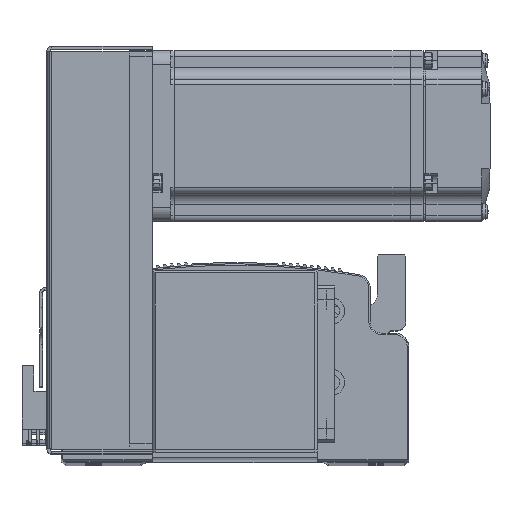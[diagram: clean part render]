
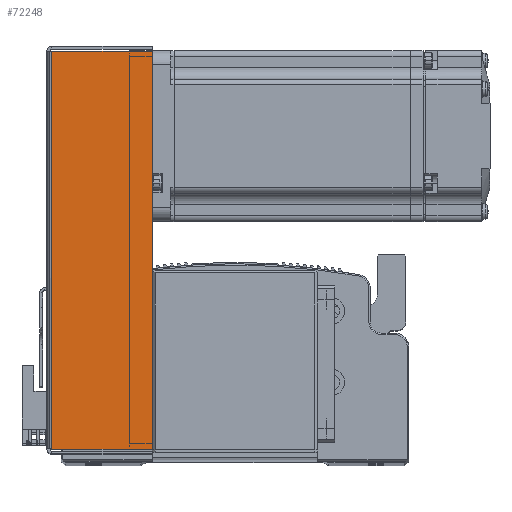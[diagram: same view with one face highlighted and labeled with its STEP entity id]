
A CAD part, top view. The second image highlights one B-rep face of the part: STEP entity #72248.
In plain terms, the highlighted planar face has unit normal (0, 0, 1) as drawn and (0, 0, -1) by its records, which use the part's own axes.
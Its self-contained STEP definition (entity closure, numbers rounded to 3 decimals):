
#709 = CARTESIAN_POINT ( 'NONE',  ( 69.793, 0.737, -33.5 ) ) ;
#773 = CARTESIAN_POINT ( 'NONE',  ( -69.793, 36., -33.5 ) ) ;
#783 = CARTESIAN_POINT ( 'NONE',  ( 69.793, 36., -33.5 ) ) ;
#804 = CARTESIAN_POINT ( 'NONE',  ( -69.793, 0.737, -33.5 ) ) ;
#18223 = LINE ( 'NONE', #36424, #18274 ) ;
#18274 = VECTOR ( 'NONE', #36466, 1000. ) ;
#18306 = LINE ( 'NONE', #36496, #18314 ) ;
#18314 = VECTOR ( 'NONE', #36488, 1000. ) ;
#18315 = LINE ( 'NONE', #36554, #18363 ) ;
#18339 = VECTOR ( 'NONE', #36591, 1000. ) ;
#18363 = VECTOR ( 'NONE', #36528, 1000. ) ;
#18375 = LINE ( 'NONE', #36524, #18339 ) ;
#19653 = AXIS2_PLACEMENT_3D ( 'NONE', #34307, #34309, #34310 ) ;
#20499 = FACE_OUTER_BOUND ( 'NONE', #82406, .T. ) ;
#34306 = PLANE ( 'NONE',  #19653 ) ;
#34307 = CARTESIAN_POINT ( 'NONE',  ( 0., 0., -33.5 ) ) ;
#34309 = DIRECTION ( 'NONE',  ( 0., 0., 1. ) ) ;
#34310 = DIRECTION ( 'NONE',  ( 0., -1., 0. ) ) ;
#36424 = CARTESIAN_POINT ( 'NONE',  ( 69.793, 0., -33.5 ) ) ;
#36466 = DIRECTION ( 'NONE',  ( 0., 1., 0. ) ) ;
#36488 = DIRECTION ( 'NONE',  ( 1., 0., 0. ) ) ;
#36496 = CARTESIAN_POINT ( 'NONE',  ( 0., 36., -33.5 ) ) ;
#36524 = CARTESIAN_POINT ( 'NONE',  ( -69.793, 0., -33.5 ) ) ;
#36528 = DIRECTION ( 'NONE',  ( 1., 0., 0. ) ) ;
#36554 = CARTESIAN_POINT ( 'NONE',  ( 71.5, 0.737, -33.5 ) ) ;
#36591 = DIRECTION ( 'NONE',  ( 0., 1., 0. ) ) ;
#45901 = EDGE_CURVE ( 'NONE', #53169, #53204, #18223, .T. ) ;
#45906 = EDGE_CURVE ( 'NONE', #53229, #53204, #18306, .T. ) ;
#45930 = EDGE_CURVE ( 'NONE', #53224, #53169, #18315, .T. ) ;
#45939 = EDGE_CURVE ( 'NONE', #53224, #53229, #18375, .T. ) ;
#53169 = VERTEX_POINT ( 'NONE', #709 ) ;
#53204 = VERTEX_POINT ( 'NONE', #783 ) ;
#53224 = VERTEX_POINT ( 'NONE', #804 ) ;
#53229 = VERTEX_POINT ( 'NONE', #773 ) ;
#62348 = ORIENTED_EDGE ( 'NONE', *, *, #45906, .T. ) ;
#62420 = ORIENTED_EDGE ( 'NONE', *, *, #45939, .T. ) ;
#62437 = ORIENTED_EDGE ( 'NONE', *, *, #45930, .F. ) ;
#62445 = ORIENTED_EDGE ( 'NONE', *, *, #45901, .F. ) ;
#72248 = ADVANCED_FACE ( 'NONE', ( #20499 ), #34306, .F. ) ;
#82406 = EDGE_LOOP ( 'NONE', ( #62437, #62420, #62348, #62445 ) ) ;
